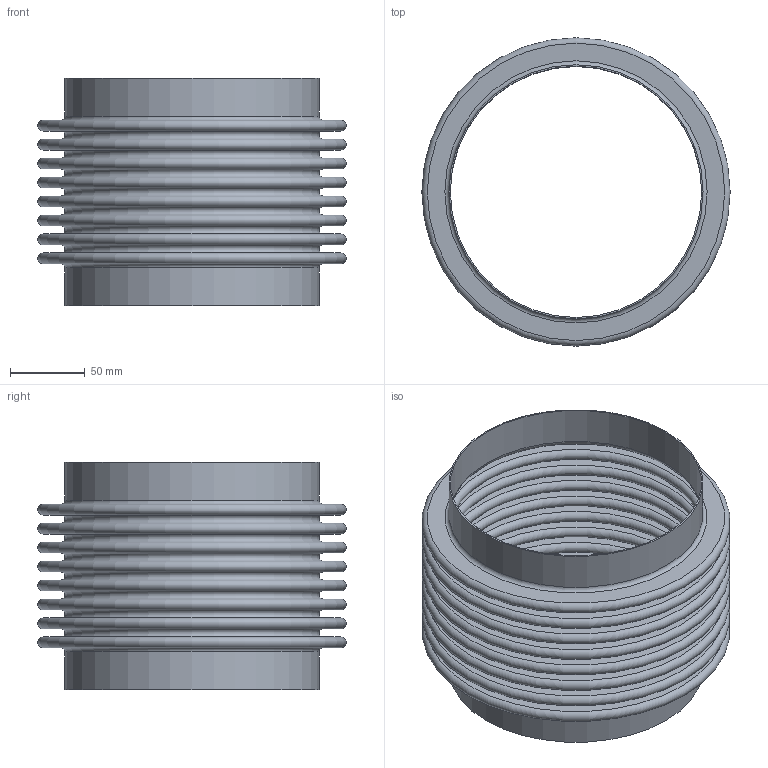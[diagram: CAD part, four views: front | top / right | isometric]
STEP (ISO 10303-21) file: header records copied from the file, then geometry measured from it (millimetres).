
FILE_DESCRIPTION(/* description */ ('STOCK BELLOWS: U.S-6-8-150S, 6.625 I.D., 8.125 O.D., 1 PLY, 20 GA (0.036 THICK), 8 CONS., 0.500 PITCH, 1.000 TANGENT. '),/* implementation_level */ '2;1');
FILE_NAME(/* name */ 'STOCK BELLOW - US-6-8-150S.stp',/* time_stamp */ '2026-07-21T13:02:11-05:00',/* author */ ('KennethB'),/* organization */ (''),/* preprocessor_version */ 'ST-DEVELOPER v20.1',/* originating_system */ 'Autodesk Inventor 2026',/* authorisation */ '');
FILE_SCHEMA (('AUTOMOTIVE_DESIGN { 1 0 10303 214 3 1 1 }'));
Length unit declared in the file: inch
Products named in the file (1): STOCK BELLOW - US-6-8-150S
Bounding box: 206.38 x 206.38 x 152.4 mm (x, y, z)
Volume: 212044.5 mm3; surface area: 466705.5 mm2
Topology: 3 solids, 3 shells, 76 faces, 114 edges, 77 vertices
Faces by surface type: plane 38, torus 34, cylinder 4
Full cylindrical faces by diameter (mm): 168.275 x2, 170.104 x2
Entity records: 1814 total; most frequent: DIRECTION 378, CARTESIAN_POINT 268, ORIENTED_EDGE 228, AXIS2_PLACEMENT_3D 187, EDGE_LOOP 114, EDGE_CURVE 114, CIRCLE 110, FACE_OUTER_BOUND 76
